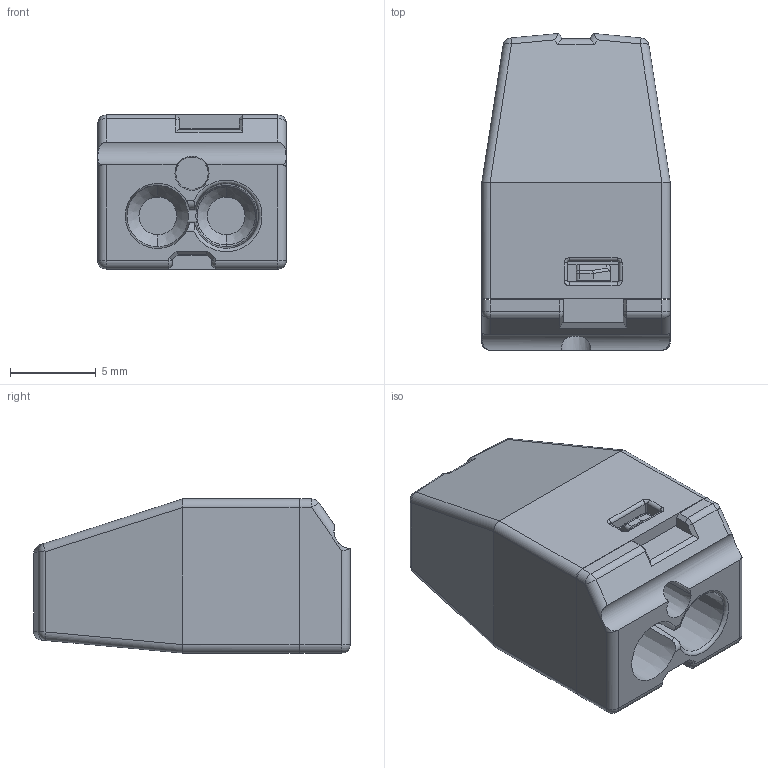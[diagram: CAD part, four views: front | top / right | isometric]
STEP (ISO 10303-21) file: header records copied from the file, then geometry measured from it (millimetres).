
FILE_DESCRIPTION(('Creo Elements/Direct Modeling STEP Export'),'2;1');
FILE_NAME('OK-2.stp','2014-09-02T11:07:46',(''),(''),'Creo Elements/Direct Modeling STEP processor for AP214 (Solid Model)','Creo Elements/Direct Modeling 18.1B 29-Sep-2012 (C) Parametric Technology GmbH','');
FILE_SCHEMA(('AUTOMOTIVE_DESIGN { 1 0 10303 214 1 1 1 1 }'));
Length unit declared in the file: millimetre
Products named in the file (2): OK-2; H08-0003-CE901_OK-2
Assembly tree (1 placements, depth 2):
  H08-0003-CE901_OK-2
    OK-2
Bounding box: 11 x 18.5 x 9 mm (x, y, z)
Volume: 1351.7 mm3; surface area: 1190.5 mm2
Topology: 1 solids, 1 shells, 184 faces, 476 edges, 285 vertices
Faces by surface type: plane 81, cylinder 69, cone 12, sphere 11, torus 7, bspline 4
Entity records: 6547 total; most frequent: CARTESIAN_POINT 1556, ORIENTED_EDGE 930, DIRECTION 898, EDGE_CURVE 465, AXIS2_PLACEMENT_3D 314, VERTEX_POINT 285, VECTOR 270, LINE 270
